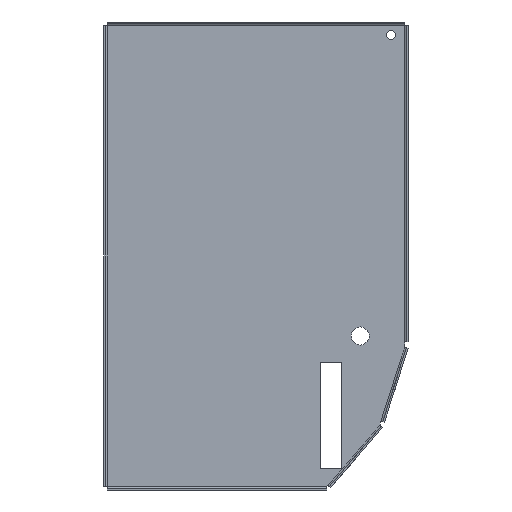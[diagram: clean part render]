
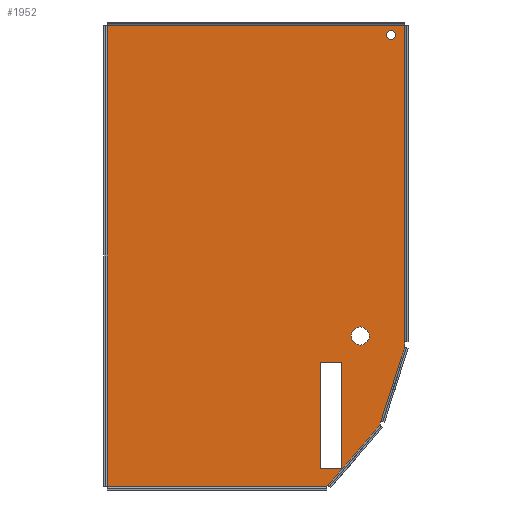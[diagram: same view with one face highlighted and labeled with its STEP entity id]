
A CAD part, front view. The second image highlights one B-rep face of the part: STEP entity #1952.
In plain terms, the highlighted planar face has unit normal (0, -1, 0).
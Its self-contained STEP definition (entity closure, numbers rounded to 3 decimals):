
#111=DIRECTION('',(-1.,0.,0.));
#112=VECTOR('',#111,32.92);
#113=CARTESIAN_POINT('',(33.12,-0.2,-2.2));
#114=LINE('',#113,#112);
#256=DIRECTION('',(0.,0.,-1.));
#257=VECTOR('',#256,51.05);
#258=CARTESIAN_POINT('',(0.2,-0.2,-2.2));
#259=LINE('',#258,#257);
#268=DIRECTION('',(1.,0.,0.));
#269=VECTOR('',#268,24.3);
#270=CARTESIAN_POINT('',(0.2,-0.2,-53.25));
#271=LINE('',#270,#269);
#291=DIRECTION('',(0.,0.,-1.));
#292=VECTOR('',#291,0.583);
#293=CARTESIAN_POINT('',(33.12,-0.2,-37.244));
#294=LINE('',#293,#292);
#295=DIRECTION('',(-1.,0.,0.));
#296=VECTOR('',#295,0.013);
#297=CARTESIAN_POINT('',(33.133,-0.2,-37.827));
#298=LINE('',#297,#296);
#299=DIRECTION('',(0.305,0.,0.952));
#300=VECTOR('',#299,0.012);
#301=CARTESIAN_POINT('',(33.13,-0.2,-37.839));
#302=LINE('',#301,#300);
#303=DIRECTION('',(-0.305,0.,-0.952));
#304=VECTOR('',#303,0.471);
#305=CARTESIAN_POINT('',(30.516,-0.2,-46.002));
#306=LINE('',#305,#304);
#307=DIRECTION('',(0.653,0.,0.757));
#308=VECTOR('',#307,0.009);
#309=CARTESIAN_POINT('',(30.366,-0.2,-46.457));
#310=LINE('',#309,#308);
#311=DIRECTION('',(-0.653,0.,-0.757));
#312=VECTOR('',#311,0.172);
#313=CARTESIAN_POINT('',(24.621,-0.2,-53.119));
#314=LINE('',#313,#312);
#315=DIRECTION('',(1.,0.,0.));
#316=VECTOR('',#315,0.008);
#317=CARTESIAN_POINT('',(24.5,-0.2,-53.25));
#318=LINE('',#317,#316);
#319=CARTESIAN_POINT('',(31.62,-0.2,-3.25));
#320=DIRECTION('',(0.,1.,0.));
#321=DIRECTION('',(1.,0.,0.));
#322=AXIS2_PLACEMENT_3D('',#319,#320,#321);
#324=CARTESIAN_POINT('',(31.62,-0.2,-3.25));
#325=DIRECTION('',(0.,1.,0.));
#326=DIRECTION('',(-1.,0.,0.));
#327=AXIS2_PLACEMENT_3D('',#324,#325,#326);
#329=CARTESIAN_POINT('',(28.2,-0.2,-36.59));
#330=DIRECTION('',(0.,1.,0.));
#331=DIRECTION('',(1.,0.,0.));
#332=AXIS2_PLACEMENT_3D('',#329,#330,#331);
#334=CARTESIAN_POINT('',(28.2,-0.2,-36.59));
#335=DIRECTION('',(0.,1.,0.));
#336=DIRECTION('',(-1.,0.,0.));
#337=AXIS2_PLACEMENT_3D('',#334,#335,#336);
#339=DIRECTION('',(1.,0.,0.));
#340=VECTOR('',#339,2.35);
#341=CARTESIAN_POINT('',(23.78,-0.2,-39.514));
#342=LINE('',#341,#340);
#343=DIRECTION('',(0.,0.,1.));
#344=VECTOR('',#343,11.8);
#345=CARTESIAN_POINT('',(23.78,-0.2,-51.314));
#346=LINE('',#345,#344);
#347=DIRECTION('',(-1.,0.,0.));
#348=VECTOR('',#347,2.35);
#349=CARTESIAN_POINT('',(26.13,-0.2,-51.314));
#350=LINE('',#349,#348);
#351=DIRECTION('',(0.,0.,-1.));
#352=VECTOR('',#351,11.8);
#353=CARTESIAN_POINT('',(26.13,-0.2,-39.514));
#354=LINE('',#353,#352);
#379=DIRECTION('',(0.,0.,1.));
#380=VECTOR('',#379,35.044);
#381=CARTESIAN_POINT('',(33.12,-0.2,-37.244));
#382=LINE('',#381,#380);
#591=DIRECTION('',(0.653,0.,0.757));
#592=VECTOR('',#591,8.797);
#593=CARTESIAN_POINT('',(24.621,-0.2,-53.119));
#594=LINE('',#593,#592);
#882=DIRECTION('',(0.305,0.,0.952));
#883=VECTOR('',#882,8.571);
#884=CARTESIAN_POINT('',(30.516,-0.2,-46.002));
#885=LINE('',#884,#883);
#1304=CARTESIAN_POINT('',(0.2,-0.2,-2.2));
#1305=VERTEX_POINT('',#1304);
#1308=CARTESIAN_POINT('',(0.2,-0.2,-53.25));
#1309=VERTEX_POINT('',#1308);
#1320=CARTESIAN_POINT('',(24.5,-0.2,-53.25));
#1322=VERTEX_POINT('',#1320);
#1332=CARTESIAN_POINT('',(30.366,-0.2,-46.457));
#1333=VERTEX_POINT('',#1332);
#1344=CARTESIAN_POINT('',(24.621,-0.2,-53.119));
#1345=CARTESIAN_POINT('',(24.508,-0.2,-53.25));
#1346=VERTEX_POINT('',#1344);
#1347=VERTEX_POINT('',#1345);
#1364=CARTESIAN_POINT('',(30.516,-0.2,-46.002));
#1365=CARTESIAN_POINT('',(30.372,-0.2,-46.45));
#1366=VERTEX_POINT('',#1364);
#1367=VERTEX_POINT('',#1365);
#1368=CARTESIAN_POINT('',(33.13,-0.2,-37.839));
#1370=VERTEX_POINT('',#1368);
#1390=CARTESIAN_POINT('',(33.12,-0.2,-37.244));
#1391=CARTESIAN_POINT('',(33.12,-0.2,-37.827));
#1392=VERTEX_POINT('',#1390);
#1393=VERTEX_POINT('',#1391);
#1394=CARTESIAN_POINT('',(33.133,-0.2,-37.827));
#1395=VERTEX_POINT('',#1394);
#1396=CARTESIAN_POINT('',(33.12,-0.2,-2.2));
#1397=VERTEX_POINT('',#1396);
#1528=CARTESIAN_POINT('',(32.12,-0.2,-3.25));
#1529=CARTESIAN_POINT('',(31.12,-0.2,-3.25));
#1530=VERTEX_POINT('',#1528);
#1531=VERTEX_POINT('',#1529);
#1532=CARTESIAN_POINT('',(29.2,-0.2,-36.59));
#1533=CARTESIAN_POINT('',(27.2,-0.2,-36.59));
#1534=VERTEX_POINT('',#1532);
#1535=VERTEX_POINT('',#1533);
#1544=CARTESIAN_POINT('',(23.78,-0.2,-39.514));
#1545=CARTESIAN_POINT('',(26.13,-0.2,-39.514));
#1546=VERTEX_POINT('',#1544);
#1547=VERTEX_POINT('',#1545);
#1548=CARTESIAN_POINT('',(26.13,-0.2,-51.314));
#1549=VERTEX_POINT('',#1548);
#1550=CARTESIAN_POINT('',(23.78,-0.2,-51.314));
#1551=VERTEX_POINT('',#1550);
#1900=CARTESIAN_POINT('',(0.,-0.2,0.));
#1901=DIRECTION('',(0.,1.,0.));
#1902=DIRECTION('',(1.,0.,0.));
#1903=AXIS2_PLACEMENT_3D('',#1900,#1901,#1902);
#1904=PLANE('',#1903);
#1905=ORIENTED_EDGE('',*,*,#1665,.F.);
#1907=ORIENTED_EDGE('',*,*,#1906,.F.);
#1909=ORIENTED_EDGE('',*,*,#1908,.T.);
#1911=ORIENTED_EDGE('',*,*,#1910,.F.);
#1913=ORIENTED_EDGE('',*,*,#1912,.F.);
#1915=ORIENTED_EDGE('',*,*,#1914,.F.);
#1917=ORIENTED_EDGE('',*,*,#1916,.T.);
#1919=ORIENTED_EDGE('',*,*,#1918,.F.);
#1921=ORIENTED_EDGE('',*,*,#1920,.F.);
#1923=ORIENTED_EDGE('',*,*,#1922,.T.);
#1925=ORIENTED_EDGE('',*,*,#1924,.F.);
#1926=ORIENTED_EDGE('',*,*,#1888,.F.);
#1927=ORIENTED_EDGE('',*,*,#1848,.F.);
#1928=EDGE_LOOP('',(#1905,#1907,#1909,#1911,#1913,#1915,#1917,#1919,#1921,#1923,
#1925,#1926,#1927));
#1929=FACE_OUTER_BOUND('',#1928,.F.);
#1931=ORIENTED_EDGE('',*,*,#1930,.F.);
#1933=ORIENTED_EDGE('',*,*,#1932,.F.);
#1934=EDGE_LOOP('',(#1931,#1933));
#1935=FACE_BOUND('',#1934,.F.);
#1937=ORIENTED_EDGE('',*,*,#1936,.F.);
#1939=ORIENTED_EDGE('',*,*,#1938,.F.);
#1940=EDGE_LOOP('',(#1937,#1939));
#1941=FACE_BOUND('',#1940,.F.);
#1943=ORIENTED_EDGE('',*,*,#1942,.F.);
#1945=ORIENTED_EDGE('',*,*,#1944,.F.);
#1947=ORIENTED_EDGE('',*,*,#1946,.F.);
#1949=ORIENTED_EDGE('',*,*,#1948,.F.);
#1950=EDGE_LOOP('',(#1943,#1945,#1947,#1949));
#1951=FACE_BOUND('',#1950,.F.);
#1952=ADVANCED_FACE('',(#1929,#1935,#1941,#1951),#1904,.F.);
#323=CIRCLE('',#322,0.5);
#328=CIRCLE('',#327,0.5);
#333=CIRCLE('',#332,1.);
#338=CIRCLE('',#337,1.);
#1665=EDGE_CURVE('',#1397,#1305,#114,.T.);
#1848=EDGE_CURVE('',#1305,#1309,#259,.T.);
#1888=EDGE_CURVE('',#1309,#1322,#271,.T.);
#1906=EDGE_CURVE('',#1392,#1397,#382,.T.);
#1908=EDGE_CURVE('',#1392,#1393,#294,.T.);
#1910=EDGE_CURVE('',#1395,#1393,#298,.T.);
#1912=EDGE_CURVE('',#1370,#1395,#302,.T.);
#1914=EDGE_CURVE('',#1366,#1370,#885,.T.);
#1916=EDGE_CURVE('',#1366,#1367,#306,.T.);
#1918=EDGE_CURVE('',#1333,#1367,#310,.T.);
#1920=EDGE_CURVE('',#1346,#1333,#594,.T.);
#1922=EDGE_CURVE('',#1346,#1347,#314,.T.);
#1924=EDGE_CURVE('',#1322,#1347,#318,.T.);
#1930=EDGE_CURVE('',#1530,#1531,#323,.T.);
#1932=EDGE_CURVE('',#1531,#1530,#328,.T.);
#1936=EDGE_CURVE('',#1534,#1535,#333,.T.);
#1938=EDGE_CURVE('',#1535,#1534,#338,.T.);
#1942=EDGE_CURVE('',#1546,#1547,#342,.T.);
#1944=EDGE_CURVE('',#1551,#1546,#346,.T.);
#1946=EDGE_CURVE('',#1549,#1551,#350,.T.);
#1948=EDGE_CURVE('',#1547,#1549,#354,.T.);
